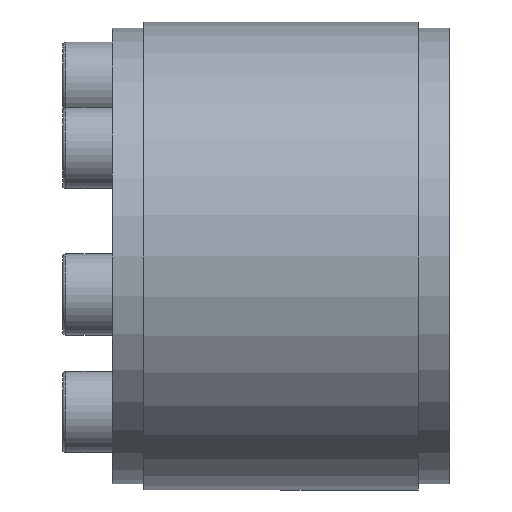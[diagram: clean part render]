
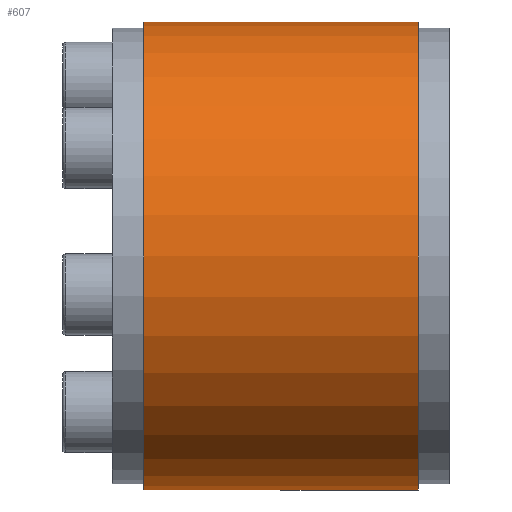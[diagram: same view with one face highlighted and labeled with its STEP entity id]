
A CAD part, left-side view. The second image highlights one B-rep face of the part: STEP entity #607.
In plain terms, the highlighted cylindrical face has radius 37.5 mm (diameter 75 mm), a partial arc.
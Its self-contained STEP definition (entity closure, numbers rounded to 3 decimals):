
#209 = DIRECTION ( 'NONE',  ( 0., 0., -1. ) ) ;
#220 = CARTESIAN_POINT ( 'NONE',  ( 0., -22., 0. ) ) ;
#311 = VERTEX_POINT ( 'NONE', #2296 ) ;
#322 = EDGE_CURVE ( 'NONE', #972, #1632, #1010, .T. ) ;
#337 = AXIS2_PLACEMENT_3D ( 'NONE', #421, #2548, #1927 ) ;
#402 = CARTESIAN_POINT ( 'NONE',  ( 0., -22., -37.5 ) ) ;
#421 = CARTESIAN_POINT ( 'NONE',  ( 0., 22., 0. ) ) ;
#431 = CYLINDRICAL_SURFACE ( 'NONE', #1866, 37.5 ) ;
#457 = DIRECTION ( 'NONE',  ( 0., 0., -1. ) ) ;
#538 = VECTOR ( 'NONE', #1636, 1000. ) ;
#555 = EDGE_LOOP ( 'NONE', ( #1928, #2521, #1791, #2487 ) ) ;
#566 = EDGE_CURVE ( 'NONE', #1098, #1632, #664, .T. ) ;
#607 = ADVANCED_FACE ( 'NONE', ( #2731 ), #431, .T. ) ;
#664 = CIRCLE ( 'NONE', #2242, 37.5 ) ;
#972 = VERTEX_POINT ( 'NONE', #1463 ) ;
#993 = EDGE_CURVE ( 'NONE', #311, #972, #1269, .T. ) ;
#1010 = LINE ( 'NONE', #2477, #538 ) ;
#1049 = LINE ( 'NONE', #1937, #1288 ) ;
#1084 = EDGE_CURVE ( 'NONE', #311, #1098, #1049, .T. ) ;
#1098 = VERTEX_POINT ( 'NONE', #1980 ) ;
#1269 = CIRCLE ( 'NONE', #337, 37.5 ) ;
#1288 = VECTOR ( 'NONE', #2586, 1000. ) ;
#1463 = CARTESIAN_POINT ( 'NONE',  ( 0., 22., -37.5 ) ) ;
#1632 = VERTEX_POINT ( 'NONE', #402 ) ;
#1636 = DIRECTION ( 'NONE',  ( 0., -1., 0. ) ) ;
#1753 = DIRECTION ( 'NONE',  ( 0., -1., 0. ) ) ;
#1791 = ORIENTED_EDGE ( 'NONE', *, *, #322, .T. ) ;
#1866 = AXIS2_PLACEMENT_3D ( 'NONE', #1931, #1753, #457 ) ;
#1927 = DIRECTION ( 'NONE',  ( 0., 0., -1. ) ) ;
#1928 = ORIENTED_EDGE ( 'NONE', *, *, #1084, .F. ) ;
#1931 = CARTESIAN_POINT ( 'NONE',  ( 0., 0., 0. ) ) ;
#1937 = CARTESIAN_POINT ( 'NONE',  ( 0., 0., 37.5 ) ) ;
#1980 = CARTESIAN_POINT ( 'NONE',  ( 0., -22., 37.5 ) ) ;
#2242 = AXIS2_PLACEMENT_3D ( 'NONE', #220, #2567, #209 ) ;
#2296 = CARTESIAN_POINT ( 'NONE',  ( 0., 22., 37.5 ) ) ;
#2477 = CARTESIAN_POINT ( 'NONE',  ( 0., 0., -37.5 ) ) ;
#2487 = ORIENTED_EDGE ( 'NONE', *, *, #566, .F. ) ;
#2521 = ORIENTED_EDGE ( 'NONE', *, *, #993, .T. ) ;
#2548 = DIRECTION ( 'NONE',  ( 0., -1., 0. ) ) ;
#2567 = DIRECTION ( 'NONE',  ( 0., -1., 0. ) ) ;
#2586 = DIRECTION ( 'NONE',  ( 0., -1., 0. ) ) ;
#2731 = FACE_OUTER_BOUND ( 'NONE', #555, .T. ) ;
